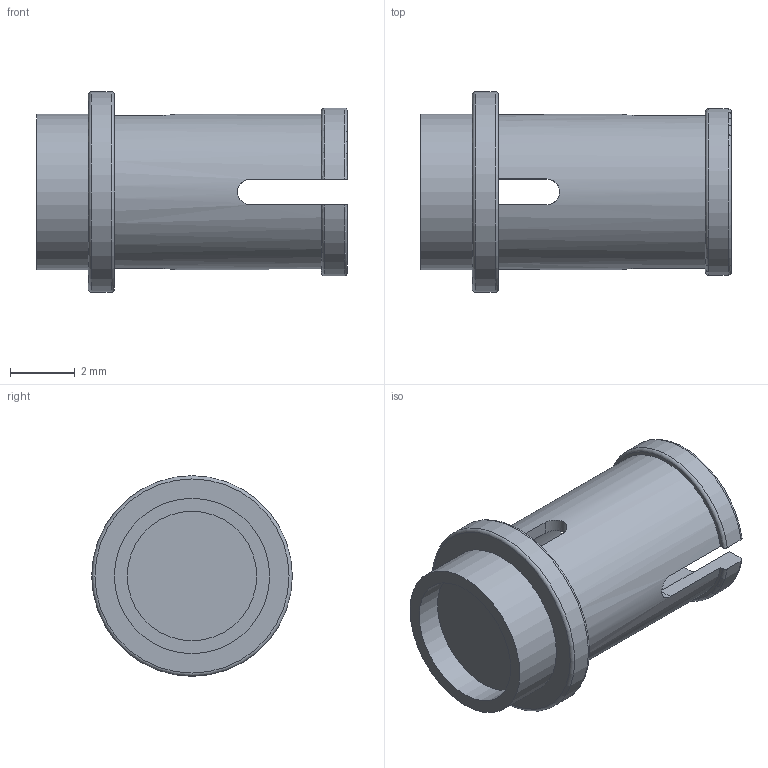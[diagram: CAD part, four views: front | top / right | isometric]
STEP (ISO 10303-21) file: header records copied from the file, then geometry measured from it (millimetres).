
FILE_DESCRIPTION(/* description */ ('Unknown'),/* implementation_level */ '2;1');
FILE_NAME(/* name */ 'ClGray_4211483_MCM',/* time_stamp */ '2025-07-21T23:50:21+02:00',/* author */ ('Unknown'),/* organization */ ('Unknown'),/* preprocessor_version */ 'ST-DEVELOPER v19.4',/* originating_system */ 'Solid Edge',/* authorisation */ 'Unknown');
FILE_SCHEMA (('AUTOMOTIVE_DESIGN {1 0 10303 214 3 1 1}'));
Length unit declared in the file: millimetre
Products named in the file (1): ClGray_4211483_MCM
Bounding box: 9.6 x 6.2 x 6.2 mm (x, y, z)
Volume: 81.7 mm3; surface area: 306.4 mm2
Topology: 1 solids, 1 shells, 33 faces, 92 edges, 61 vertices
Faces by surface type: plane 16, cylinder 11, torus 6
Full cylindrical faces by diameter (mm): 4 x2, 4.8 x2, 6.2 x1
Entity records: 1044 total; most frequent: CARTESIAN_POINT 226, ORIENTED_EDGE 160, DIRECTION 156, EDGE_CURVE 80, AXIS2_PLACEMENT_3D 58, VERTEX_POINT 56, EDGE_LOOP 44, FACE_BOUND 44
